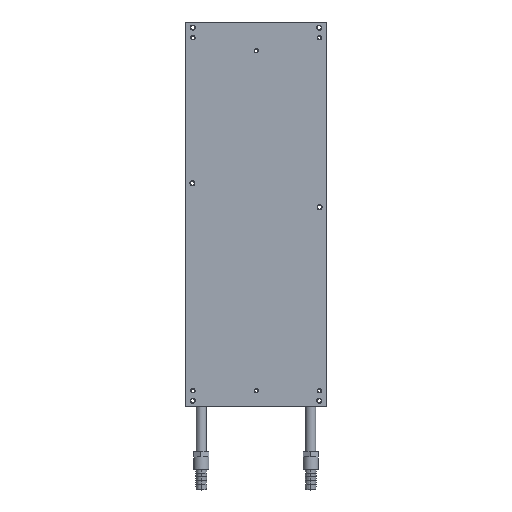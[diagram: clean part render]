
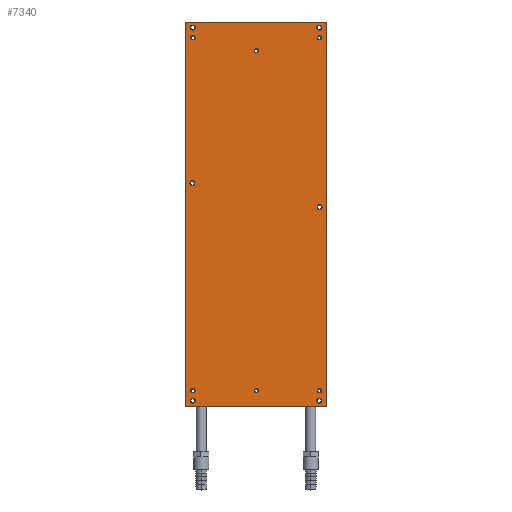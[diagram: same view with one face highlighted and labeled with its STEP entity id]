
A CAD part, top view. The second image highlights one B-rep face of the part: STEP entity #7340.
In plain terms, the highlighted planar face has unit normal (0, 0, 1).
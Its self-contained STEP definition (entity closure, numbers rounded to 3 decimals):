
#4910=CARTESIAN_POINT('',(0.,0.,17.49));
#4920=DIRECTION('',(0.,0.,1.));
#4930=DIRECTION('',(1.,0.,0.));
#4940=AXIS2_PLACEMENT_3D('',#4910,#4920,#4930);
#4950=PLANE('',#4940);
#4960=CARTESIAN_POINT('',(48.769,207.338,17.49));
#4970=DIRECTION('',(0.,0.,1.));
#4980=DIRECTION('',(1.,0.,-0.));
#4990=AXIS2_PLACEMENT_3D('',#4960,#4970,#4980);
#5000=CIRCLE('',#4990,2.1);
#5010=CARTESIAN_POINT('',(46.669,207.338,17.49));
#5020=VERTEX_POINT('',#5010);
#5030=CARTESIAN_POINT('',(50.869,207.338,17.49));
#5040=VERTEX_POINT('',#5030);
#5050=EDGE_CURVE('',#5020,#5040,#5000,.T.);
#5060=ORIENTED_EDGE('',*,*,#5050,.F.);
#5070=EDGE_CURVE('',#5040,#5020,#5000,.T.);
#5080=ORIENTED_EDGE('',*,*,#5070,.F.);
#5090=EDGE_LOOP('',(#5080,#5060));
#5100=FACE_BOUND('',#5090,.T.);
#5110=CARTESIAN_POINT('',(397.767,144.838,17.49));
#5120=DIRECTION('',(0.,0.,1.));
#5130=DIRECTION('',(1.,0.,-0.));
#5140=AXIS2_PLACEMENT_3D('',#5110,#5120,#5130);
#5150=CIRCLE('',#5140,2.1);
#5160=CARTESIAN_POINT('',(395.667,144.838,17.49));
#5170=VERTEX_POINT('',#5160);
#5180=CARTESIAN_POINT('',(399.867,144.838,17.49));
#5190=VERTEX_POINT('',#5180);
#5200=EDGE_CURVE('',#5170,#5190,#5150,.T.);
#5210=ORIENTED_EDGE('',*,*,#5200,.F.);
#5220=EDGE_CURVE('',#5190,#5170,#5150,.T.);
#5230=ORIENTED_EDGE('',*,*,#5220,.F.);
#5240=EDGE_LOOP('',(#5230,#5210));
#5250=FACE_BOUND('',#5240,.T.);
#5260=CARTESIAN_POINT('',(397.767,82.338,17.49));
#5270=DIRECTION('',(0.,0.,1.));
#5280=DIRECTION('',(1.,0.,-0.));
#5290=AXIS2_PLACEMENT_3D('',#5260,#5270,#5280);
#5300=CIRCLE('',#5290,2.1);
#5310=CARTESIAN_POINT('',(395.667,82.338,17.49));
#5320=VERTEX_POINT('',#5310);
#5330=CARTESIAN_POINT('',(399.867,82.338,17.49));
#5340=VERTEX_POINT('',#5330);
#5350=EDGE_CURVE('',#5320,#5340,#5300,.T.);
#5360=ORIENTED_EDGE('',*,*,#5350,.F.);
#5370=EDGE_CURVE('',#5340,#5320,#5300,.T.);
#5380=ORIENTED_EDGE('',*,*,#5370,.F.);
#5390=EDGE_LOOP('',(#5380,#5360));
#5400=FACE_BOUND('',#5390,.T.);
#5410=CARTESIAN_POINT('',(48.769,82.338,17.49));
#5420=DIRECTION('',(0.,0.,1.));
#5430=DIRECTION('',(1.,0.,-0.));
#5440=AXIS2_PLACEMENT_3D('',#5410,#5420,#5430);
#5450=CIRCLE('',#5440,2.1);
#5460=CARTESIAN_POINT('',(46.669,82.338,17.49));
#5470=VERTEX_POINT('',#5460);
#5480=CARTESIAN_POINT('',(50.869,82.338,17.49));
#5490=VERTEX_POINT('',#5480);
#5500=EDGE_CURVE('',#5470,#5490,#5450,.T.);
#5510=ORIENTED_EDGE('',*,*,#5500,.F.);
#5520=EDGE_CURVE('',#5490,#5470,#5450,.T.);
#5530=ORIENTED_EDGE('',*,*,#5520,.F.);
#5540=EDGE_LOOP('',(#5530,#5510));
#5550=FACE_BOUND('',#5540,.T.);
#5560=CARTESIAN_POINT('',(61.773,144.838,17.49));
#5570=DIRECTION('',(0.,0.,1.));
#5580=DIRECTION('',(1.,0.,-0.));
#5590=AXIS2_PLACEMENT_3D('',#5560,#5570,#5580);
#5600=CIRCLE('',#5590,2.1);
#5610=CARTESIAN_POINT('',(59.673,144.838,17.49));
#5620=VERTEX_POINT('',#5610);
#5630=CARTESIAN_POINT('',(63.873,144.838,17.49));
#5640=VERTEX_POINT('',#5630);
#5650=EDGE_CURVE('',#5620,#5640,#5600,.T.);
#5660=ORIENTED_EDGE('',*,*,#5650,.F.);
#5670=EDGE_CURVE('',#5640,#5620,#5600,.T.);
#5680=ORIENTED_EDGE('',*,*,#5670,.F.);
#5690=EDGE_LOOP('',(#5680,#5660));
#5700=FACE_BOUND('',#5690,.T.);
#5710=CARTESIAN_POINT('',(397.769,207.338,17.49));
#5720=DIRECTION('',(0.,0.,1.));
#5730=DIRECTION('',(1.,0.,-0.));
#5740=AXIS2_PLACEMENT_3D('',#5710,#5720,#5730);
#5750=CIRCLE('',#5740,2.1);
#5760=CARTESIAN_POINT('',(395.669,207.338,17.49));
#5770=VERTEX_POINT('',#5760);
#5780=CARTESIAN_POINT('',(399.869,207.338,17.49));
#5790=VERTEX_POINT('',#5780);
#5800=EDGE_CURVE('',#5770,#5790,#5750,.T.);
#5810=ORIENTED_EDGE('',*,*,#5800,.F.);
#5820=EDGE_CURVE('',#5790,#5770,#5750,.T.);
#5830=ORIENTED_EDGE('',*,*,#5820,.F.);
#5840=EDGE_LOOP('',(#5830,#5810));
#5850=FACE_BOUND('',#5840,.T.);
#5860=CARTESIAN_POINT('',(407.769,207.138,17.49));
#5870=DIRECTION('',(0.,0.,1.));
#5880=DIRECTION('',(1.,0.,0.));
#5890=AXIS2_PLACEMENT_3D('',#5860,#5870,#5880);
#5900=CIRCLE('',#5890,2.5);
#5910=CARTESIAN_POINT('',(407.769,209.638,17.49));
#5920=VERTEX_POINT('',#5910);
#5930=CARTESIAN_POINT('',(405.269,207.138,17.49));
#5940=VERTEX_POINT('',#5930);
#5950=EDGE_CURVE('',#5920,#5940,#5900,.T.);
#5960=ORIENTED_EDGE('',*,*,#5950,.F.);
#5970=CARTESIAN_POINT('',(410.269,207.138,17.49));
#5980=VERTEX_POINT('',#5970);
#5990=EDGE_CURVE('',#5940,#5980,#5900,.T.);
#6000=ORIENTED_EDGE('',*,*,#5990,.F.);
#6010=EDGE_CURVE('',#5980,#5920,#5900,.T.);
#6020=ORIENTED_EDGE('',*,*,#6010,.F.);
#6030=EDGE_LOOP('',(#6020,#6000,#5960));
#6040=FACE_BOUND('',#6030,.T.);
#6050=CARTESIAN_POINT('',(216.269,207.538,17.49));
#6060=DIRECTION('',(0.,0.,1.));
#6070=DIRECTION('',(1.,0.,0.));
#6080=AXIS2_PLACEMENT_3D('',#6050,#6060,#6070);
#6090=CIRCLE('',#6080,2.5);
#6100=CARTESIAN_POINT('',(216.269,210.038,17.49));
#6110=VERTEX_POINT('',#6100);
#6120=CARTESIAN_POINT('',(213.769,207.538,17.49));
#6130=VERTEX_POINT('',#6120);
#6140=EDGE_CURVE('',#6110,#6130,#6090,.T.);
#6150=ORIENTED_EDGE('',*,*,#6140,.F.);
#6160=CARTESIAN_POINT('',(218.769,207.538,17.49));
#6170=VERTEX_POINT('',#6160);
#6180=EDGE_CURVE('',#6130,#6170,#6090,.T.);
#6190=ORIENTED_EDGE('',*,*,#6180,.F.);
#6200=EDGE_CURVE('',#6170,#6110,#6090,.T.);
#6210=ORIENTED_EDGE('',*,*,#6200,.F.);
#6220=EDGE_LOOP('',(#6210,#6190,#6150));
#6230=FACE_BOUND('',#6220,.T.);
#6240=CARTESIAN_POINT('',(38.832,207.138,17.49));
#6250=DIRECTION('',(0.,0.,1.));
#6260=DIRECTION('',(1.,0.,0.));
#6270=AXIS2_PLACEMENT_3D('',#6240,#6250,#6260);
#6280=CIRCLE('',#6270,2.5);
#6290=CARTESIAN_POINT('',(38.832,209.638,17.49));
#6300=VERTEX_POINT('',#6290);
#6310=CARTESIAN_POINT('',(36.332,207.138,17.49));
#6320=VERTEX_POINT('',#6310);
#6330=EDGE_CURVE('',#6300,#6320,#6280,.T.);
#6340=ORIENTED_EDGE('',*,*,#6330,.F.);
#6350=CARTESIAN_POINT('',(41.332,207.138,17.49));
#6360=VERTEX_POINT('',#6350);
#6370=EDGE_CURVE('',#6320,#6360,#6280,.T.);
#6380=ORIENTED_EDGE('',*,*,#6370,.F.);
#6390=EDGE_CURVE('',#6360,#6300,#6280,.T.);
#6400=ORIENTED_EDGE('',*,*,#6390,.F.);
#6410=EDGE_LOOP('',(#6400,#6380,#6340));
#6420=FACE_BOUND('',#6410,.T.);
#6430=CARTESIAN_POINT('',(38.769,82.138,17.49));
#6440=DIRECTION('',(0.,0.,1.));
#6450=DIRECTION('',(1.,0.,0.));
#6460=AXIS2_PLACEMENT_3D('',#6430,#6440,#6450);
#6470=CIRCLE('',#6460,2.5);
#6480=CARTESIAN_POINT('',(38.769,84.638,17.49));
#6490=VERTEX_POINT('',#6480);
#6500=CARTESIAN_POINT('',(36.269,82.138,17.49));
#6510=VERTEX_POINT('',#6500);
#6520=EDGE_CURVE('',#6490,#6510,#6470,.T.);
#6530=ORIENTED_EDGE('',*,*,#6520,.F.);
#6540=CARTESIAN_POINT('',(41.269,82.138,17.49));
#6550=VERTEX_POINT('',#6540);
#6560=EDGE_CURVE('',#6510,#6550,#6470,.T.);
#6570=ORIENTED_EDGE('',*,*,#6560,.F.);
#6580=EDGE_CURVE('',#6550,#6490,#6470,.T.);
#6590=ORIENTED_EDGE('',*,*,#6580,.F.);
#6600=EDGE_LOOP('',(#6590,#6570,#6530));
#6610=FACE_BOUND('',#6600,.T.);
#6620=CARTESIAN_POINT('',(192.769,81.738,17.49));
#6630=DIRECTION('',(0.,0.,1.));
#6640=DIRECTION('',(1.,0.,0.));
#6650=AXIS2_PLACEMENT_3D('',#6620,#6630,#6640);
#6660=CIRCLE('',#6650,2.5);
#6670=CARTESIAN_POINT('',(192.769,84.238,17.49));
#6680=VERTEX_POINT('',#6670);
#6690=CARTESIAN_POINT('',(190.269,81.738,17.49));
#6700=VERTEX_POINT('',#6690);
#6710=EDGE_CURVE('',#6680,#6700,#6660,.T.);
#6720=ORIENTED_EDGE('',*,*,#6710,.F.);
#6730=CARTESIAN_POINT('',(195.269,81.738,17.49));
#6740=VERTEX_POINT('',#6730);
#6750=EDGE_CURVE('',#6700,#6740,#6660,.T.);
#6760=ORIENTED_EDGE('',*,*,#6750,.F.);
#6770=EDGE_CURVE('',#6740,#6680,#6660,.T.);
#6780=ORIENTED_EDGE('',*,*,#6770,.F.);
#6790=EDGE_LOOP('',(#6780,#6760,#6720));
#6800=FACE_BOUND('',#6790,.T.);
#6810=CARTESIAN_POINT('',(407.769,82.138,17.49));
#6820=DIRECTION('',(0.,0.,1.));
#6830=DIRECTION('',(1.,0.,0.));
#6840=AXIS2_PLACEMENT_3D('',#6810,#6820,#6830);
#6850=CIRCLE('',#6840,2.5);
#6860=CARTESIAN_POINT('',(407.769,84.638,17.49));
#6870=VERTEX_POINT('',#6860);
#6880=CARTESIAN_POINT('',(405.269,82.138,17.49));
#6890=VERTEX_POINT('',#6880);
#6900=EDGE_CURVE('',#6870,#6890,#6850,.T.);
#6910=ORIENTED_EDGE('',*,*,#6900,.F.);
#6920=CARTESIAN_POINT('',(410.269,82.138,17.49));
#6930=VERTEX_POINT('',#6920);
#6940=EDGE_CURVE('',#6890,#6930,#6850,.T.);
#6950=ORIENTED_EDGE('',*,*,#6940,.F.);
#6960=EDGE_CURVE('',#6930,#6870,#6850,.T.);
#6970=ORIENTED_EDGE('',*,*,#6960,.F.);
#6980=EDGE_LOOP('',(#6970,#6950,#6910));
#6990=FACE_BOUND('',#6980,.T.);
#7000=CARTESIAN_POINT('',(0.,214.638,17.49));
#7010=DIRECTION('',(1.,0.,0.));
#7020=VECTOR('',#7010,1.);
#7030=LINE('',#7000,#7020);
#7040=CARTESIAN_POINT('',(33.269,214.638,17.49));
#7050=VERTEX_POINT('',#7040);
#7060=CARTESIAN_POINT('',(413.269,214.638,17.49));
#7070=VERTEX_POINT('',#7060);
#7080=EDGE_CURVE('',#7050,#7070,#7030,.T.);
#7090=ORIENTED_EDGE('',*,*,#7080,.F.);
#7100=CARTESIAN_POINT('',(413.269,0.,17.49));
#7110=DIRECTION('',(0.,-1.,0.));
#7120=VECTOR('',#7110,1.);
#7130=LINE('',#7100,#7120);
#7140=CARTESIAN_POINT('',(413.269,74.638,17.49));
#7150=VERTEX_POINT('',#7140);
#7160=EDGE_CURVE('',#7070,#7150,#7130,.T.);
#7170=ORIENTED_EDGE('',*,*,#7160,.F.);
#7180=CARTESIAN_POINT('',(0.,74.638,17.49));
#7190=DIRECTION('',(-1.,0.,0.));
#7200=VECTOR('',#7190,1.);
#7210=LINE('',#7180,#7200);
#7220=CARTESIAN_POINT('',(33.269,74.638,17.49));
#7230=VERTEX_POINT('',#7220);
#7240=EDGE_CURVE('',#7150,#7230,#7210,.T.);
#7250=ORIENTED_EDGE('',*,*,#7240,.F.);
#7260=CARTESIAN_POINT('',(33.269,0.,17.49));
#7270=DIRECTION('',(0.,1.,0.));
#7280=VECTOR('',#7270,1.);
#7290=LINE('',#7260,#7280);
#7300=EDGE_CURVE('',#7230,#7050,#7290,.T.);
#7310=ORIENTED_EDGE('',*,*,#7300,.F.);
#7320=EDGE_LOOP('',(#7310,#7250,#7170,#7090));
#7330=FACE_OUTER_BOUND('',#7320,.T.);
#7340=ADVANCED_FACE('',(#5100,#5250,#5400,#5550,#5700,#5850,#6040,#6230,
#6420,#6610,#6800,#6990,#7330),#4950,.T.);
